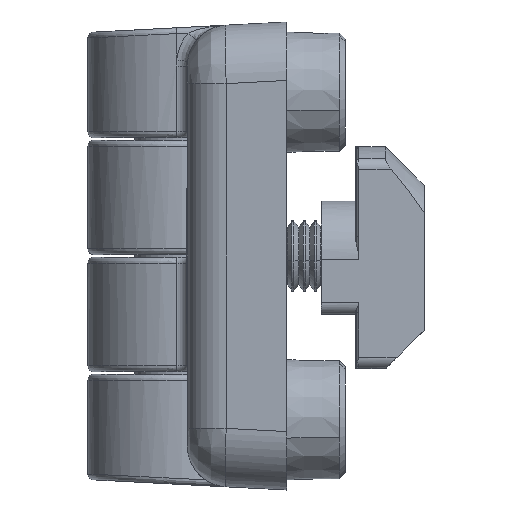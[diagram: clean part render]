
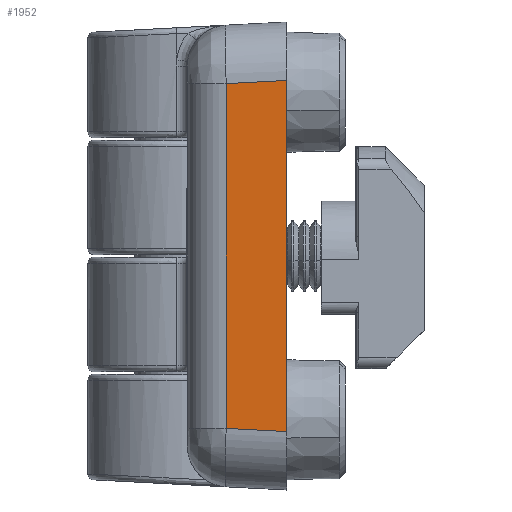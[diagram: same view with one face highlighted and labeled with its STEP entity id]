
A CAD part, left-side view. The second image highlights one B-rep face of the part: STEP entity #1952.
In plain terms, the highlighted planar face has unit normal (-0.999, 0.052, 0).
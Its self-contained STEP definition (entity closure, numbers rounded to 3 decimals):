
#52 = EDGE_CURVE ( 'NONE', #14237, #79, #9492, .T. ) ;
#79 = VERTEX_POINT ( 'NONE', #5007 ) ;
#1085 = LINE ( 'NONE', #3714, #16696 ) ;
#1274 = EDGE_LOOP ( 'NONE', ( #10739, #10794, #18011, #10139 ) ) ;
#1378 = CARTESIAN_POINT ( 'NONE',  ( -77.706, 1.502, -14.73 ) ) ;
#1952 = ADVANCED_FACE ( 'NONE', ( #14955 ), #6652, .T. ) ;
#2162 = VECTOR ( 'NONE', #16370, 1000. ) ;
#2296 = DIRECTION ( 'NONE',  ( 0.052, 0.997, 0.052 ) ) ;
#2375 = DIRECTION ( 'NONE',  ( 0.052, 0.997, -0.052 ) ) ;
#3714 = CARTESIAN_POINT ( 'NONE',  ( -77.706, 1.502, -19.995 ) ) ;
#3845 = VECTOR ( 'NONE', #2296, 1000. ) ;
#3930 = CARTESIAN_POINT ( 'NONE',  ( -77.888, -1.962, -14.912 ) ) ;
#5007 = CARTESIAN_POINT ( 'NONE',  ( -77.706, 1.502, 14.74 ) ) ;
#5289 = DIRECTION ( 'NONE',  ( -0.999, 0.052, 0. ) ) ;
#5380 = CARTESIAN_POINT ( 'NONE',  ( -77.978, -3.682, 15.012 ) ) ;
#5648 = DIRECTION ( 'NONE',  ( -0.052, -0.999, 0. ) ) ;
#6652 = PLANE ( 'NONE',  #16416 ) ;
#8884 = EDGE_CURVE ( 'NONE', #10322, #10978, #12394, .T. ) ;
#9458 = LINE ( 'NONE', #16283, #2162 ) ;
#9492 = LINE ( 'NONE', #5380, #10756 ) ;
#9871 = CARTESIAN_POINT ( 'NONE',  ( -77.978, -3.682, -15.002 ) ) ;
#10139 = ORIENTED_EDGE ( 'NONE', *, *, #17550, .T. ) ;
#10322 = VERTEX_POINT ( 'NONE', #9871 ) ;
#10468 = CARTESIAN_POINT ( 'NONE',  ( -77.978, -3.682, 15.012 ) ) ;
#10739 = ORIENTED_EDGE ( 'NONE', *, *, #52, .T. ) ;
#10756 = VECTOR ( 'NONE', #2375, 1000. ) ;
#10794 = ORIENTED_EDGE ( 'NONE', *, *, #17529, .F. ) ;
#10978 = VERTEX_POINT ( 'NONE', #1378 ) ;
#12204 = CARTESIAN_POINT ( 'NONE',  ( -77.978, -3.682, -19.995 ) ) ;
#12394 = LINE ( 'NONE', #3930, #3845 ) ;
#14237 = VERTEX_POINT ( 'NONE', #10468 ) ;
#14955 = FACE_OUTER_BOUND ( 'NONE', #1274, .T. ) ;
#16283 = CARTESIAN_POINT ( 'NONE',  ( -77.978, -3.682, -19.995 ) ) ;
#16370 = DIRECTION ( 'NONE',  ( 0., 0., 1. ) ) ;
#16416 = AXIS2_PLACEMENT_3D ( 'NONE', #12204, #5289, #5648 ) ;
#16696 = VECTOR ( 'NONE', #17733, 1000. ) ;
#17529 = EDGE_CURVE ( 'NONE', #10978, #79, #1085, .T. ) ;
#17550 = EDGE_CURVE ( 'NONE', #10322, #14237, #9458, .T. ) ;
#17733 = DIRECTION ( 'NONE',  ( 0., 0., 1. ) ) ;
#18011 = ORIENTED_EDGE ( 'NONE', *, *, #8884, .F. ) ;
